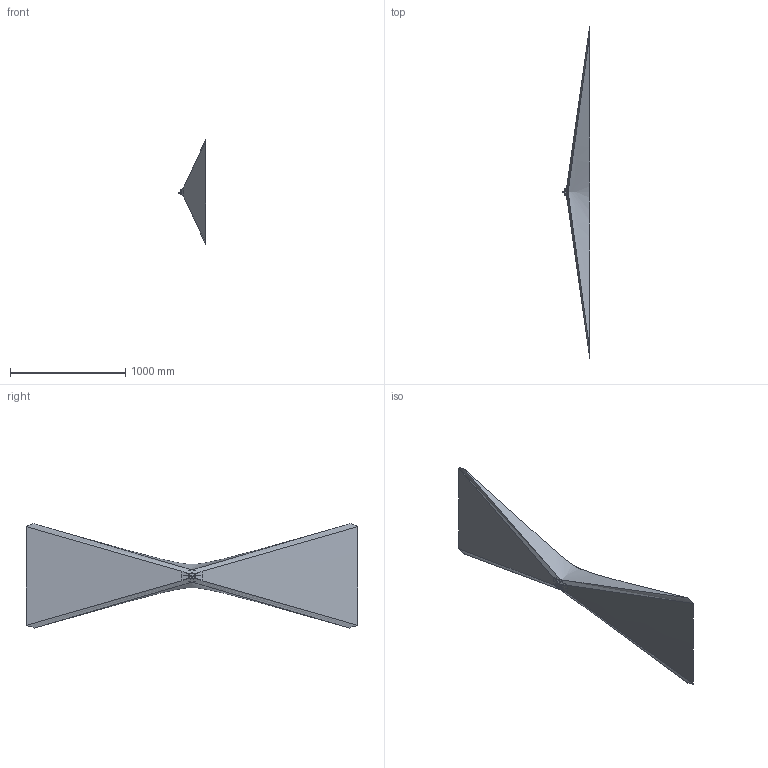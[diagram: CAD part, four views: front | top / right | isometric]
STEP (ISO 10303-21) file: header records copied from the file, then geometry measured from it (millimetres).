
FILE_DESCRIPTION(('CATIA V5 STEP Exchange','CAx-IF Rec.Pracs.--- Model Styling and Organization---1.5--- 2016-08-15','CAx-IF Rec.Pracs.---Supplemental Geometry---1.0---2011-11-01','CAx-IF Rec.Pracs.--- Composite Materials ---1.1---2010-07-15'),'2;1');
FILE_NAME('E:\tmp\ddx\2011204\3D_data_LED_position_lamp_SHAPELINE_tech_2PF 013 323.stp','2022-01-18T07:38:30+00:00',('none'),('none'),'CATIA Version 5-6 Release 2020 SP3 HF9','CATIA V5 STEP AP214 Edition 3 v2','none');
FILE_SCHEMA(('AUTOMOTIVE_DESIGN { 1 0 10303 214 3 1 1 1 }'));
Length unit declared in the file: millimetre
Products named in the file (1): 10002759030_D10_001
Bounding box: 237.1 x 2879.54 x 903.74 mm (x, y, z)
Volume: 33854 mm3; surface area: 2295475.9 mm2
Topology: 1 solids, 3 shells, 555 faces, 1345 edges, 785 vertices
Faces by surface type: bspline 348, plane 79, cylinder 75, cone 24, torus 18, extrusion 9, sphere 2
Entity records: 32009 total; most frequent: CARTESIAN_POINT 22443, ORIENTED_EDGE 2582, EDGE_CURVE 1321, B_SPLINE_CURVE_WITH_KNOTS 959, VERTEX_POINT 785, DIRECTION 720, EDGE_LOOP 584, ADVANCED_FACE 555
